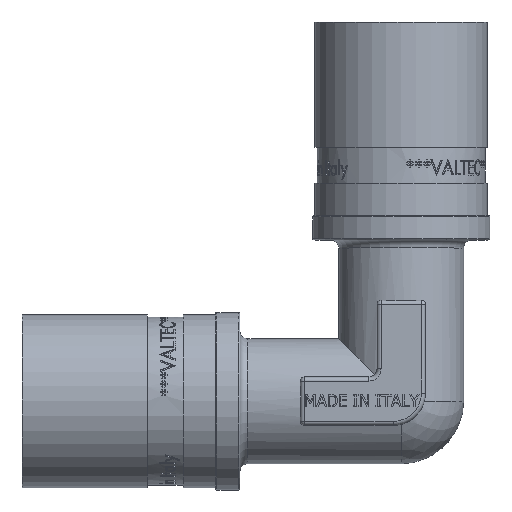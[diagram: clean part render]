
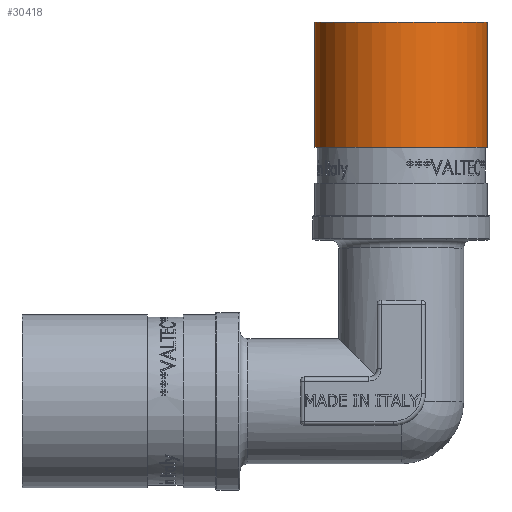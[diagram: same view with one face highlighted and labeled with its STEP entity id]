
A CAD part, top view. The second image highlights one B-rep face of the part: STEP entity #30418.
In plain terms, the highlighted cylindrical face has radius 10.7 mm (diameter 21.4 mm), a full revolution.
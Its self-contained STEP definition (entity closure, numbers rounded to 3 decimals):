
#2313=FACE_OUTER_BOUND('',#4137,.T.);
#4137=EDGE_LOOP('',(#23944,#23945,#23946,#23947,#23948,#23949));
#7811=LINE('',#53317,#10043);
#10043=VECTOR('',#35251,10.7);
#11768=CIRCLE('',#32129,10.7);
#11769=CIRCLE('',#32130,10.7);
#11770=CIRCLE('',#32131,10.7);
#11771=CIRCLE('',#32132,10.7);
#13872=VERTEX_POINT('',#53312);
#13873=VERTEX_POINT('',#53313);
#13874=VERTEX_POINT('',#53316);
#13875=VERTEX_POINT('',#53318);
#17586=EDGE_CURVE('',#13872,#13873,#11768,.T.);
#17587=EDGE_CURVE('',#13873,#13872,#11769,.T.);
#17588=EDGE_CURVE('',#13873,#13874,#7811,.T.);
#17589=EDGE_CURVE('',#13874,#13875,#11770,.T.);
#17590=EDGE_CURVE('',#13875,#13874,#11771,.T.);
#23944=ORIENTED_EDGE('',*,*,#17586,.F.);
#23945=ORIENTED_EDGE('',*,*,#17587,.F.);
#23946=ORIENTED_EDGE('',*,*,#17588,.T.);
#23947=ORIENTED_EDGE('',*,*,#17589,.T.);
#23948=ORIENTED_EDGE('',*,*,#17590,.T.);
#23949=ORIENTED_EDGE('',*,*,#17588,.F.);
#29685=CYLINDRICAL_SURFACE('',#32128,10.7);
#30418=ADVANCED_FACE('',(#2313),#29685,.T.);
#32128=AXIS2_PLACEMENT_3D('',#53311,#35245,#35246);
#32129=AXIS2_PLACEMENT_3D('',#53314,#35247,#35248);
#32130=AXIS2_PLACEMENT_3D('',#53315,#35249,#35250);
#32131=AXIS2_PLACEMENT_3D('',#53319,#35252,#35253);
#32132=AXIS2_PLACEMENT_3D('',#53320,#35254,#35255);
#35245=DIRECTION('center_axis',(0.,-1.,0.));
#35246=DIRECTION('ref_axis',(1.,0.,0.));
#35247=DIRECTION('center_axis',(0.,-1.,0.));
#35248=DIRECTION('ref_axis',(0.,0.,-1.));
#35249=DIRECTION('center_axis',(0.,-1.,0.));
#35250=DIRECTION('ref_axis',(0.,0.,-1.));
#35251=DIRECTION('',(0.,1.,0.));
#35252=DIRECTION('center_axis',(0.,-1.,0.));
#35253=DIRECTION('ref_axis',(0.,0.,-1.));
#35254=DIRECTION('center_axis',(0.,-1.,0.));
#35255=DIRECTION('ref_axis',(0.,0.,-1.));
#53311=CARTESIAN_POINT('Origin',(0.,39.262,
0.));
#53312=CARTESIAN_POINT('',(10.7,31.512,0.));
#53313=CARTESIAN_POINT('',(-10.7,31.512,0.));
#53314=CARTESIAN_POINT('Origin',(0.,31.512,
0.));
#53315=CARTESIAN_POINT('Origin',(0.,31.512,
0.));
#53316=CARTESIAN_POINT('',(-10.7,47.012,0.));
#53317=CARTESIAN_POINT('',(-10.7,39.262,0.));
#53318=CARTESIAN_POINT('',(10.7,47.012,0.));
#53319=CARTESIAN_POINT('Origin',(0.,47.012,
0.));
#53320=CARTESIAN_POINT('Origin',(0.,47.012,
0.));
